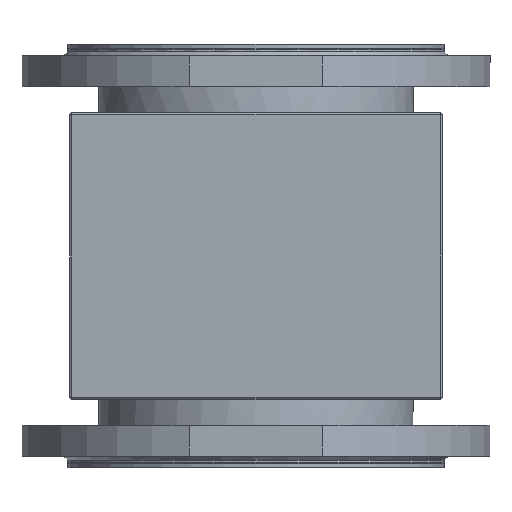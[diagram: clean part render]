
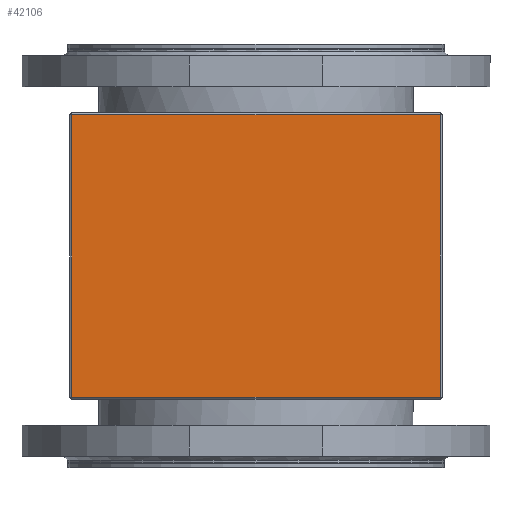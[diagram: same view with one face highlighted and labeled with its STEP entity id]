
A CAD part, front view. The second image highlights one B-rep face of the part: STEP entity #42106.
In plain terms, the highlighted planar face has unit normal (0, -1, 0).
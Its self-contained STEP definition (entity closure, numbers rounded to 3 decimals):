
#2115=PLANE('',#44871);
#3702=FACE_OUTER_BOUND('',#6068,.T.);
#6068=EDGE_LOOP('',(#29329,#29330,#29331,#29332));
#8815=LINE('',#60038,#12825);
#8816=LINE('',#60060,#12826);
#8819=LINE('',#60064,#12829);
#8833=LINE('',#60105,#12843);
#12825=VECTOR('',#49170,10.);
#12826=VECTOR('',#49197,10.);
#12829=VECTOR('',#49202,10.);
#12843=VECTOR('',#49258,10.);
#17988=VERTEX_POINT('',#60026);
#17989=VERTEX_POINT('',#60030);
#17992=VERTEX_POINT('',#60040);
#17999=VERTEX_POINT('',#60056);
#22264=EDGE_CURVE('',#17989,#17988,#8815,.T.);
#22274=EDGE_CURVE('',#17992,#17999,#8816,.T.);
#22277=EDGE_CURVE('',#17999,#17989,#8819,.T.);
#22300=EDGE_CURVE('',#17988,#17992,#8833,.T.);
#29329=ORIENTED_EDGE('',*,*,#22274,.F.);
#29330=ORIENTED_EDGE('',*,*,#22300,.F.);
#29331=ORIENTED_EDGE('',*,*,#22264,.F.);
#29332=ORIENTED_EDGE('',*,*,#22277,.F.);
#42106=ADVANCED_FACE('',(#3702),#2115,.T.);
#44871=AXIS2_PLACEMENT_3D('',#60106,#49259,#49260);
#49170=DIRECTION('',(-1.,0.,0.));
#49197=DIRECTION('',(1.,0.,0.));
#49202=DIRECTION('',(0.,0.,-1.));
#49258=DIRECTION('',(0.,0.,1.));
#49259=DIRECTION('center_axis',(0.,-1.,0.));
#49260=DIRECTION('ref_axis',(0.,0.,
1.));
#60026=CARTESIAN_POINT('',(-98.774,-270.205,-274.109));
#60030=CARTESIAN_POINT('',(282.226,-270.205,-274.109));
#60038=CARTESIAN_POINT('',(91.726,-270.205,-274.109));
#60040=CARTESIAN_POINT('',(-98.774,-270.205,17.891));
#60056=CARTESIAN_POINT('',(282.226,-270.205,17.891));
#60060=CARTESIAN_POINT('',(91.726,-270.205,17.891));
#60064=CARTESIAN_POINT('',(282.226,-270.205,-202.109));
#60105=CARTESIAN_POINT('',(-98.774,-270.205,-202.109));
#60106=CARTESIAN_POINT('Origin',(91.726,-270.205,-276.109));
